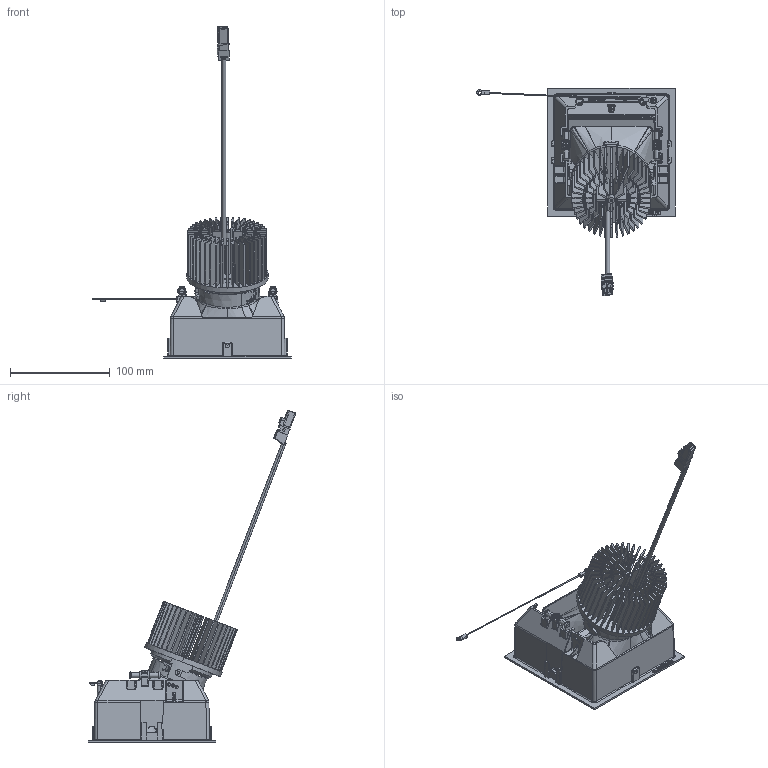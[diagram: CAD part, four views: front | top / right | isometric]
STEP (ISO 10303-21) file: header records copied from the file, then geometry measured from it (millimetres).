
FILE_DESCRIPTION((''),'2;1');
FILE_NAME('MOOD-PRO-L-WW-SQUARE-TRIM_ASM','2020-09-03T',('Administrator'),(''),'PRO/ENGINEER BY PARAMETRIC TECHNOLOGY CORPORATION, 2001280','PRO/ENGINEER BY PARAMETRIC TECHNOLOGY CORPORATION, 2001280','');
FILE_SCHEMA(('CONFIG_CONTROL_DESIGN'));
Length unit declared in the file: millimetre
Products named in the file (33): 3_40866_00_0; 1_36422_02_0; 1_36585_00_0_ASM; 1_01068_00_0; 1_00635_00_0; 1_40633_01_0; 1_40783_00_0; 1_23490_00_0; 1_31574_00_0; 1_40956_00_0; 1_38565_00_0; 1_41820_00_0; 1_40962_00_0; 1_41331_00_0_ASM; 3_41316_01_0; 1_41318_00_0; 1_34839_00_0; 1_41319_00_0_ASM; 1_35263_00_0; 1_39931_02_0; 1_32729_00_0; 1_22047_00_0; 1_24084_00_0; 1_40486_00_0; 1_29173_02_0_ASM; 1_40487_0000_00_0_ASM; 1_40879_00_0_ASM; X_ZG14K_00_0_ASM; _X_ZG14K; 51775B-25052020; 51775A-25052020; MOOD-WW-AB_ASM; MOOD-PRO-L-WW-SQUARE-TRIM_ASM
Assembly tree (50 placements, depth 5):
  MOOD-PRO-L-WW-SQUARE-TRIM_ASM
    X_ZG14K_00_0_ASM
      1_41331_00_0_ASM
        3_40866_00_0
        1_36585_00_0_ASM  x2
          1_36422_02_0
        1_01068_00_0  x2
        1_00635_00_0  x2
        1_40633_01_0  x2
        1_40783_00_0
        1_23490_00_0
        1_31574_00_0
        1_40956_00_0  x2
        1_38565_00_0  x2
        1_41820_00_0
        1_40962_00_0  x2
      1_41319_00_0_ASM
        3_41316_01_0
        1_41318_00_0
        1_40783_00_0  x3
        1_23490_00_0
        1_34839_00_0  x2
      1_40879_00_0_ASM
        1_35263_00_0
        1_34839_00_0  x2
        1_39931_02_0
        1_32729_00_0  x4
        1_22047_00_0
        1_24084_00_0
        1_40487_0000_00_0_ASM
          1_40486_00_0
          1_29173_02_0_ASM  x2
    _X_ZG14K
    MOOD-WW-AB_ASM
      51775B-25052020
      51775A-25052020
Bounding box: 198.93 x 208.37 x 332.67 mm (x, y, z)
Volume: 230528.5 mm3; surface area: 254638.8 mm2
Topology: 40 solids, 40 shells, 6876 faces, 18996 edges, 12385 vertices
Faces by surface type: plane 4727, cylinder 1045, bspline 752, cone 170, torus 122, sphere 58, extrusion 2
Entity records: 239485 total; most frequent: CARTESIAN_POINT 98586, ORIENTED_EDGE 31420, DIRECTION 25218, EDGE_CURVE 15710, VECTOR 11574, LINE 11573, VERTEX_POINT 10291, AXIS2_PLACEMENT_3D 6822
